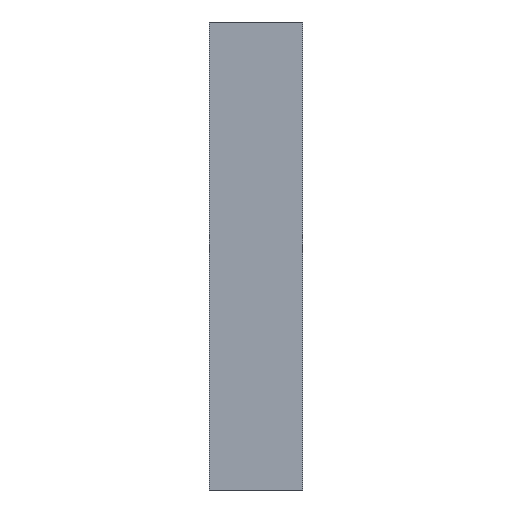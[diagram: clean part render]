
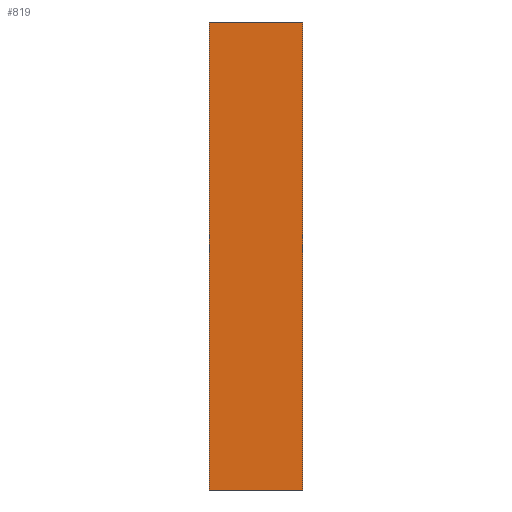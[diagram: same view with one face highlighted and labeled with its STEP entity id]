
A CAD part, left-side view. The second image highlights one B-rep face of the part: STEP entity #819.
In plain terms, the highlighted planar face has unit normal (-1, 0, 0).
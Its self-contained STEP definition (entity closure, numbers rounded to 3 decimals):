
#19 = LINE ( 'NONE', #825, #1049 ) ;
#42 = PLANE ( 'NONE',  #848 ) ;
#61 = EDGE_CURVE ( 'NONE', #1581, #1203, #932, .T. ) ;
#194 = VERTEX_POINT ( 'NONE', #342 ) ;
#294 = CARTESIAN_POINT ( 'NONE',  ( -40., 5., 0. ) ) ;
#342 = CARTESIAN_POINT ( 'NONE',  ( -40., -5., -50. ) ) ;
#452 = CARTESIAN_POINT ( 'NONE',  ( -40., 5., -50. ) ) ;
#502 = CARTESIAN_POINT ( 'NONE',  ( -40., -5., -50. ) ) ;
#557 = DIRECTION ( 'NONE',  ( 0., -1., 0. ) ) ;
#587 = VECTOR ( 'NONE', #868, 1000. ) ;
#606 = ORIENTED_EDGE ( 'NONE', *, *, #1168, .T. ) ;
#617 = EDGE_CURVE ( 'NONE', #1203, #1189, #19, .T. ) ;
#619 = DIRECTION ( 'NONE',  ( -1., 0., 0. ) ) ;
#626 = VECTOR ( 'NONE', #1061, 1000. ) ;
#819 = ADVANCED_FACE ( 'NONE', ( #1693 ), #42, .T. ) ;
#825 = CARTESIAN_POINT ( 'NONE',  ( -40., -5., 0. ) ) ;
#831 = DIRECTION ( 'NONE',  ( 0., -1., 0. ) ) ;
#848 = AXIS2_PLACEMENT_3D ( 'NONE', #875, #619, #1395 ) ;
#868 = DIRECTION ( 'NONE',  ( 0., 0., 1. ) ) ;
#875 = CARTESIAN_POINT ( 'NONE',  ( -40., -5., -50. ) ) ;
#932 = LINE ( 'NONE', #452, #587 ) ;
#1049 = VECTOR ( 'NONE', #557, 1000. ) ;
#1061 = DIRECTION ( 'NONE',  ( 0., 0., 1. ) ) ;
#1094 = VECTOR ( 'NONE', #831, 1000. ) ;
#1106 = CARTESIAN_POINT ( 'NONE',  ( -40., -5., 0. ) ) ;
#1111 = EDGE_LOOP ( 'NONE', ( #1497, #1255, #606, #1436 ) ) ;
#1161 = LINE ( 'NONE', #502, #626 ) ;
#1168 = EDGE_CURVE ( 'NONE', #1581, #194, #1303, .T. ) ;
#1189 = VERTEX_POINT ( 'NONE', #1106 ) ;
#1203 = VERTEX_POINT ( 'NONE', #294 ) ;
#1255 = ORIENTED_EDGE ( 'NONE', *, *, #61, .F. ) ;
#1303 = LINE ( 'NONE', #1508, #1094 ) ;
#1395 = DIRECTION ( 'NONE',  ( 0., 0., 1. ) ) ;
#1429 = CARTESIAN_POINT ( 'NONE',  ( -40., 5., -50. ) ) ;
#1436 = ORIENTED_EDGE ( 'NONE', *, *, #1643, .T. ) ;
#1497 = ORIENTED_EDGE ( 'NONE', *, *, #617, .F. ) ;
#1508 = CARTESIAN_POINT ( 'NONE',  ( -40., -5., -50. ) ) ;
#1581 = VERTEX_POINT ( 'NONE', #1429 ) ;
#1643 = EDGE_CURVE ( 'NONE', #194, #1189, #1161, .T. ) ;
#1693 = FACE_OUTER_BOUND ( 'NONE', #1111, .T. ) ;
